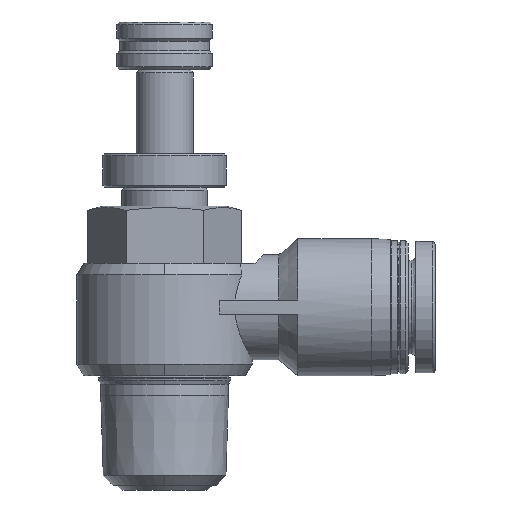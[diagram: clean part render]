
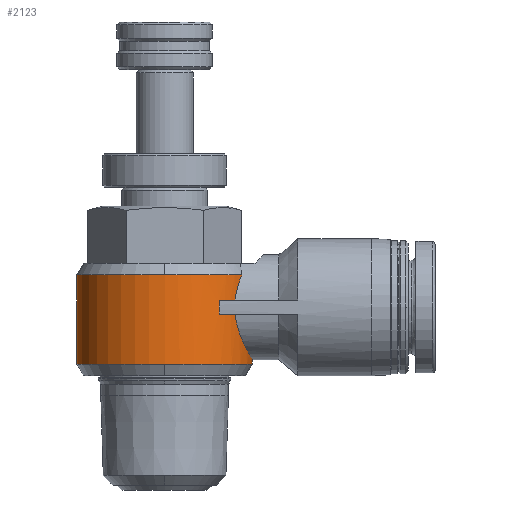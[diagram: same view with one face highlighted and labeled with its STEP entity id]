
A CAD part, front view. The second image highlights one B-rep face of the part: STEP entity #2123.
In plain terms, the highlighted cylindrical face has radius 9.2 mm (diameter 18.4 mm), a partial arc.
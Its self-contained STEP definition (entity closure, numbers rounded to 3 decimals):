
#44 = DIRECTION ( 'NONE',  ( 1., 0., 0. ) ) ;
#56 = DIRECTION ( 'NONE',  ( 0., 0., 1. ) ) ;
#68 = CARTESIAN_POINT ( 'NONE',  ( 0., 0., 13.212 ) ) ;
#157 = VERTEX_POINT ( 'NONE', #662 ) ;
#196 = VERTEX_POINT ( 'NONE', #1279 ) ;
#233 = ORIENTED_EDGE ( 'NONE', *, *, #1226, .T. ) ;
#293 = CARTESIAN_POINT ( 'NONE',  ( 8.239, -4.099, 15.519 ) ) ;
#331 = AXIS2_PLACEMENT_3D ( 'NONE', #1933, #1920, #1910 ) ;
#338 = VERTEX_POINT ( 'NONE', #348 ) ;
#348 = CARTESIAN_POINT ( 'NONE',  ( 7.413, -5.449, 18.45 ) ) ;
#386 = EDGE_CURVE ( 'NONE', #2347, #338, #3411, .T. ) ;
#414 = EDGE_CURVE ( 'NONE', #1576, #3461, #3723, .T. ) ;
#428 = CIRCLE ( 'NONE', #2316, 9.2 ) ;
#494 = AXIS2_PLACEMENT_3D ( 'NONE', #2904, #1130, #1117 ) ;
#516 = CIRCLE ( 'NONE', #3206, 9.2 ) ;
#517 = ORIENTED_EDGE ( 'NONE', *, *, #386, .F. ) ;
#550 = CARTESIAN_POINT ( 'NONE',  ( 9.2, 0., 13.212 ) ) ;
#573 = ORIENTED_EDGE ( 'NONE', *, *, #2365, .F. ) ;
#583 = CARTESIAN_POINT ( 'NONE',  ( 8.556, -3.392, 14.859 ) ) ;
#597 = B_SPLINE_CURVE_WITH_KNOTS ( 'NONE', 3,
 ( #958, #823, #904, #979, #1004, #1037, #1124, #1200 ),
 .UNSPECIFIED., .F., .F.,
 ( 4, 2, 2, 4 ),
 ( 0., 0.001, 0.002, 0.003 ),
 .UNSPECIFIED. ) ;
#605 = DIRECTION ( 'NONE',  ( 0., 0., 1. ) ) ;
#625 = EDGE_LOOP ( 'NONE', ( #573, #1570, #2918, #2736, #984, #517, #2429, #2615, #233, #2551, #2721 ) ) ;
#644 = EDGE_CURVE ( 'NONE', #2347, #3117, #2694, .T. ) ;
#662 = CARTESIAN_POINT ( 'NONE',  ( -9.2, 0., 22.588 ) ) ;
#731 = VERTEX_POINT ( 'NONE', #3864 ) ;
#751 = CARTESIAN_POINT ( 'NONE',  ( 8.116, -4.333, 22.588 ) ) ;
#823 = CARTESIAN_POINT ( 'NONE',  ( 7.463, -5.38, 20.446 ) ) ;
#871 = CARTESIAN_POINT ( 'NONE',  ( 8.836, -2.578, 14.331 ) ) ;
#904 = CARTESIAN_POINT ( 'NONE',  ( 7.559, -5.249, 20.912 ) ) ;
#958 = CARTESIAN_POINT ( 'NONE',  ( 7.413, -5.449, 19.95 ) ) ;
#979 = CARTESIAN_POINT ( 'NONE',  ( 7.746, -4.966, 21.577 ) ) ;
#984 = ORIENTED_EDGE ( 'NONE', *, *, #3731, .F. ) ;
#1004 = CARTESIAN_POINT ( 'NONE',  ( 7.815, -4.856, 21.793 ) ) ;
#1037 = CARTESIAN_POINT ( 'NONE',  ( 7.961, -4.614, 22.204 ) ) ;
#1112 = CIRCLE ( 'NONE', #1780, 9.2 ) ;
#1117 = DIRECTION ( 'NONE',  ( 1., 0., 0. ) ) ;
#1124 = CARTESIAN_POINT ( 'NONE',  ( 8.037, -4.48, 22.4 ) ) ;
#1130 = DIRECTION ( 'NONE',  ( 0., 0., 1. ) ) ;
#1173 = CARTESIAN_POINT ( 'NONE',  ( 9.054, -1.662, 13.947 ) ) ;
#1200 = CARTESIAN_POINT ( 'NONE',  ( 8.116, -4.333, 22.588 ) ) ;
#1226 = EDGE_CURVE ( 'NONE', #3141, #2477, #597, .T. ) ;
#1230 = EDGE_CURVE ( 'NONE', #3141, #3117, #516, .T. ) ;
#1279 = CARTESIAN_POINT ( 'NONE',  ( 0., -9.2, 22.588 ) ) ;
#1280 = LINE ( 'NONE', #550, #2171 ) ;
#1313 = CARTESIAN_POINT ( 'NONE',  ( 0., 0., 19.95 ) ) ;
#1315 = EDGE_CURVE ( 'NONE', #196, #157, #1112, .T. ) ;
#1329 = DIRECTION ( 'NONE',  ( 0., 0., -1. ) ) ;
#1345 = DIRECTION ( 'NONE',  ( 1., 0., 0. ) ) ;
#1437 = CARTESIAN_POINT ( 'NONE',  ( 7.503, -5.326, 17.789 ) ) ;
#1450 = CARTESIAN_POINT ( 'NONE',  ( 9.18, -0.685, 13.733 ) ) ;
#1455 = CARTESIAN_POINT ( 'NONE',  ( -9.2, 0., 13.212 ) ) ;
#1506 = CARTESIAN_POINT ( 'NONE',  ( 7.413, -5.449, 19.95 ) ) ;
#1570 = ORIENTED_EDGE ( 'NONE', *, *, #414, .T. ) ;
#1576 = VERTEX_POINT ( 'NONE', #1455 ) ;
#1587 = CARTESIAN_POINT ( 'NONE',  ( 0., -9.2, 13.212 ) ) ;
#1605 = VERTEX_POINT ( 'NONE', #3839 ) ;
#1702 = EDGE_CURVE ( 'NONE', #731, #1605, #1280, .T. ) ;
#1742 = CARTESIAN_POINT ( 'NONE',  ( 7.732, -4.989, 16.861 ) ) ;
#1761 = CARTESIAN_POINT ( 'NONE',  ( 9.2, 0., 13.7 ) ) ;
#1780 = AXIS2_PLACEMENT_3D ( 'NONE', #3358, #3404, #3414 ) ;
#1910 = DIRECTION ( 'NONE',  ( 1., 0., 0. ) ) ;
#1920 = DIRECTION ( 'NONE',  ( 0., 0., 1. ) ) ;
#1933 = CARTESIAN_POINT ( 'NONE',  ( 0., 0., 18.45 ) ) ;
#2038 = CARTESIAN_POINT ( 'NONE',  ( 8.028, -4.5, 16.021 ) ) ;
#2103 = AXIS2_PLACEMENT_3D ( 'NONE', #2600, #2571, #2310 ) ;
#2116 = CARTESIAN_POINT ( 'NONE',  ( 0., 0., 13.212 ) ) ;
#2119 = VECTOR ( 'NONE', #2593, 1000. ) ;
#2123 = ADVANCED_FACE ( '32', ( #3181 ), #2362, .T. ) ;
#2128 = CARTESIAN_POINT ( 'NONE',  ( 5.776, -7.161, 18.45 ) ) ;
#2130 = DIRECTION ( 'NONE',  ( 0., 0., 1. ) ) ;
#2132 = DIRECTION ( 'NONE',  ( 1., 0., 0. ) ) ;
#2171 = VECTOR ( 'NONE', #605, 1000. ) ;
#2208 = LINE ( 'NONE', #2562, #2119 ) ;
#2310 = DIRECTION ( 'NONE',  ( 1., 0., 0. ) ) ;
#2316 = AXIS2_PLACEMENT_3D ( 'NONE', #68, #56, #44 ) ;
#2334 = CARTESIAN_POINT ( 'NONE',  ( 7.413, -5.449, 18.45 ) ) ;
#2347 = VERTEX_POINT ( 'NONE', #2128 ) ;
#2348 = CARTESIAN_POINT ( 'NONE',  ( 8.348, -3.875, 15.283 ) ) ;
#2362 = CYLINDRICAL_SURFACE ( 'NONE', #494, 9.2 ) ;
#2365 = EDGE_CURVE ( 'NONE', #1576, #157, #2208, .T. ) ;
#2429 = ORIENTED_EDGE ( 'NONE', *, *, #644, .T. ) ;
#2477 = VERTEX_POINT ( 'NONE', #751 ) ;
#2551 = ORIENTED_EDGE ( 'NONE', *, *, #3239, .T. ) ;
#2562 = CARTESIAN_POINT ( 'NONE',  ( -9.2, 0., 13.212 ) ) ;
#2571 = DIRECTION ( 'NONE',  ( 0., 0., -1. ) ) ;
#2593 = DIRECTION ( 'NONE',  ( 0., 0., 1. ) ) ;
#2600 = CARTESIAN_POINT ( 'NONE',  ( 0., 0., 22.588 ) ) ;
#2615 = ORIENTED_EDGE ( 'NONE', *, *, #1230, .F. ) ;
#2657 = CARTESIAN_POINT ( 'NONE',  ( 7.447, -5.402, 18.113 ) ) ;
#2676 = CARTESIAN_POINT ( 'NONE',  ( 8.655, -3.134, 14.668 ) ) ;
#2694 = B_SPLINE_CURVE_WITH_KNOTS ( 'NONE', 3,
 ( #3450, #3385, #3389, #3484 ),
 .UNSPECIFIED., .F., .F.,
 ( 4, 4 ),
 ( 0., 0.001 ),
 .UNSPECIFIED. ) ;
#2721 = ORIENTED_EDGE ( 'NONE', *, *, #1315, .T. ) ;
#2736 = ORIENTED_EDGE ( 'NONE', *, *, #1702, .T. ) ;
#2904 = CARTESIAN_POINT ( 'NONE',  ( 0., 0., 13.212 ) ) ;
#2910 = B_SPLINE_CURVE_WITH_KNOTS ( 'NONE', 3,
 ( #2334, #2657, #1437, #3570, #1742, #3867, #2038, #293, #2348, #583, #2676, #871, #2989, #1173, #3288, #1450, #3584, #1761 ),
 .UNSPECIFIED., .F., .F.,
 ( 4, 2, 2, 2, 2, 2, 2, 2, 4 ),
 ( -0.008, -0.007, -0.006, -0.005, -0.004, -0.003, -0.002, -0.001, 0. ),
 .UNSPECIFIED. ) ;
#2918 = ORIENTED_EDGE ( 'NONE', *, *, #3354, .T. ) ;
#2967 = CARTESIAN_POINT ( 'NONE',  ( 5.776, -7.161, 19.95 ) ) ;
#2989 = CARTESIAN_POINT ( 'NONE',  ( 8.919, -2.278, 14.183 ) ) ;
#3117 = VERTEX_POINT ( 'NONE', #2967 ) ;
#3141 = VERTEX_POINT ( 'NONE', #1506 ) ;
#3181 = FACE_OUTER_BOUND ( 'NONE', #625, .T. ) ;
#3206 = AXIS2_PLACEMENT_3D ( 'NONE', #1313, #1329, #1345 ) ;
#3239 = EDGE_CURVE ( 'NONE', #2477, #196, #3788, .T. ) ;
#3288 = CARTESIAN_POINT ( 'NONE',  ( 9.107, -1.344, 13.856 ) ) ;
#3354 = EDGE_CURVE ( 'NONE', #3461, #731, #428, .T. ) ;
#3358 = CARTESIAN_POINT ( 'NONE',  ( 0., 0., 22.588 ) ) ;
#3385 = CARTESIAN_POINT ( 'NONE',  ( 5.711, -7.213, 18.95 ) ) ;
#3389 = CARTESIAN_POINT ( 'NONE',  ( 5.711, -7.213, 19.45 ) ) ;
#3404 = DIRECTION ( 'NONE',  ( 0., 0., -1. ) ) ;
#3411 = CIRCLE ( 'NONE', #331, 9.2 ) ;
#3414 = DIRECTION ( 'NONE',  ( 1., 0., 0. ) ) ;
#3450 = CARTESIAN_POINT ( 'NONE',  ( 5.776, -7.161, 18.45 ) ) ;
#3461 = VERTEX_POINT ( 'NONE', #1587 ) ;
#3484 = CARTESIAN_POINT ( 'NONE',  ( 5.776, -7.161, 19.95 ) ) ;
#3570 = CARTESIAN_POINT ( 'NONE',  ( 7.645, -5.12, 17.164 ) ) ;
#3584 = CARTESIAN_POINT ( 'NONE',  ( 9.2, -0.342, 13.7 ) ) ;
#3723 = CIRCLE ( 'NONE', #3766, 9.2 ) ;
#3731 = EDGE_CURVE ( 'NONE', #338, #1605, #2910, .T. ) ;
#3766 = AXIS2_PLACEMENT_3D ( 'NONE', #2116, #2130, #2132 ) ;
#3788 = CIRCLE ( 'NONE', #2103, 9.2 ) ;
#3839 = CARTESIAN_POINT ( 'NONE',  ( 9.2, 0., 13.7 ) ) ;
#3864 = CARTESIAN_POINT ( 'NONE',  ( 9.2, 0., 13.212 ) ) ;
#3867 = CARTESIAN_POINT ( 'NONE',  ( 7.924, -4.678, 16.289 ) ) ;
